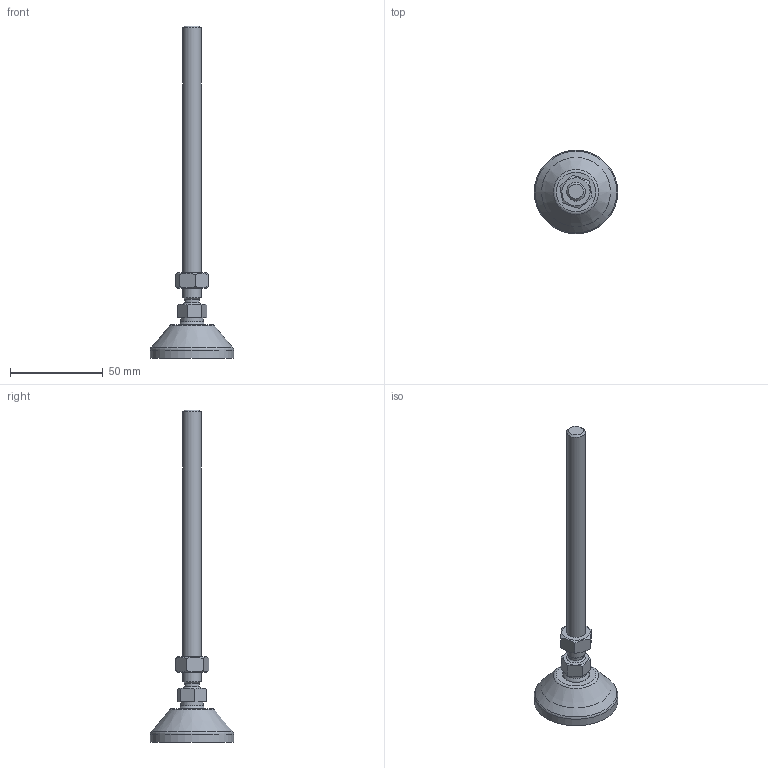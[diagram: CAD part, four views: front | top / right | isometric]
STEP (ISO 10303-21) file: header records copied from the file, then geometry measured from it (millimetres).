
FILE_DESCRIPTION(('STEP AP203'), '1');
FILE_NAME('栖闉罻', '', ('UNSPECIFIED'), ('UNSPECIFIED'), 'C3D Converter', 'C3D Toolkit', '');
FILE_SCHEMA(('CONFIG_CONTROL_DESIGN'));
Length unit declared in the file: millimetre
Products named in the file (4): A00015.1045; A00020.110150
Assembly tree (3 placements, depth 3):
  (unnamed)
    A00015.1045
    A00020.110150
      (unnamed)
Bounding box: 45 x 45 x 179.1 mm (x, y, z)
Volume: 28155.9 mm3; surface area: 13502.3 mm2
Topology: 3 solids, 3 shells, 134 faces, 367 edges, 243 vertices
Faces by surface type: plane 78, cylinder 26, cone 15, torus 13, sphere 2
Full cylindrical faces by diameter (mm): 8 x1, 8.376 x1, 10 x1, 12 x1, 14.3 x1, 15 x2, 15.5 x1, 37.3 x1, 45 x1
Entity records: 7321 total; most frequent: CARTESIAN_POINT 2732, DIRECTION 694, ORIENTED_EDGE 680, EDGE_CURVE 340, AXIS2_PLACEMENT_3D 274, VERTEX_POINT 242, EDGE_LOOP 166, LINE 146
